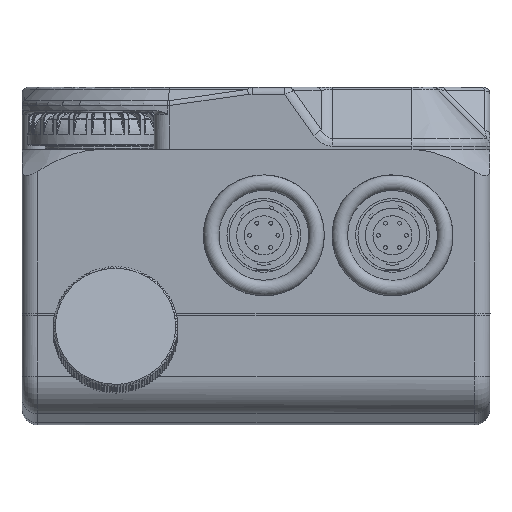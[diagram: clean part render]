
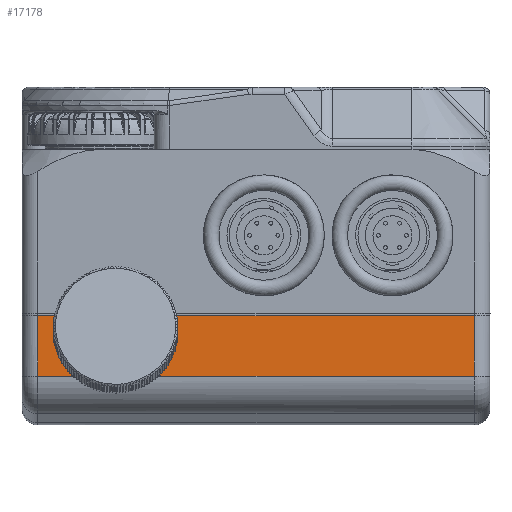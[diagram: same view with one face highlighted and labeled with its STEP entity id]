
A CAD part, left-side view. The second image highlights one B-rep face of the part: STEP entity #17178.
In plain terms, the highlighted planar face has unit normal (-1, 0, 0).
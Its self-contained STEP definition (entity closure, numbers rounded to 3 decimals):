
#13363=ELLIPSE('',#49721,3.132,3.025);
#15086=FACE_BOUND('',#22423,.T.);
#15087=FACE_BOUND('',#22424,.T.);
#17178=ADVANCED_FACE('',(#15086,#15087),#18096,.T.);
#18096=PLANE('',#49753);
#22423=EDGE_LOOP('',(#32717));
#22424=EDGE_LOOP('',(#32718,#32719,#32720,#32721));
#32717=ORIENTED_EDGE('',*,*,#42197,.T.);
#32718=ORIENTED_EDGE('',*,*,#42193,.T.);
#32719=ORIENTED_EDGE('',*,*,#42200,.T.);
#32720=ORIENTED_EDGE('',*,*,#42278,.F.);
#32721=ORIENTED_EDGE('',*,*,#42194,.T.);
#36823=VERTEX_POINT('',#93236);
#36851=VERTEX_POINT('',#93602);
#36869=VERTEX_POINT('',#93833);
#36871=VERTEX_POINT('',#93847);
#36873=VERTEX_POINT('',#93860);
#42193=EDGE_CURVE('',#36851,#36823,#47736,.T.);
#42194=EDGE_CURVE('',#36869,#36851,#47737,.T.);
#42197=EDGE_CURVE('',#36871,#36871,#13363,.T.);
#42200=EDGE_CURVE('',#36823,#36873,#47742,.T.);
#42278=EDGE_CURVE('',#36869,#36873,#47820,.T.);
#47736=B_SPLINE_CURVE_WITH_KNOTS('',3,(#93824,#93825,#93826,#93827),
 .UNSPECIFIED.,.F.,.F.,(4,4),(0.,1.),.UNSPECIFIED.);
#47737=B_SPLINE_CURVE_WITH_KNOTS('',3,(#93829,#93830,#93831,#93832),
 .UNSPECIFIED.,.F.,.F.,(4,4),(0.,1.),.UNSPECIFIED.);
#47742=B_SPLINE_CURVE_WITH_KNOTS('',3,(#93861,#93862,#93863,#93864),
 .UNSPECIFIED.,.F.,.F.,(4,4),(0.,1.),.UNSPECIFIED.);
#47820=B_SPLINE_CURVE_WITH_KNOTS('',3,(#94582,#94583,#94584,#94585),
 .UNSPECIFIED.,.F.,.F.,(4,4),(0.,1.),.UNSPECIFIED.);
#49721=AXIS2_PLACEMENT_3D('',#93846,#52791,#52792);
#49753=AXIS2_PLACEMENT_3D('',#94586,#52855,#52856);
#52791=DIRECTION('',(1.,0.,0.));
#52792=DIRECTION('',(0.,0.,1.));
#52855=DIRECTION('',(-1.,0.,0.));
#52856=DIRECTION('',(0.,0.,1.));
#93236=CARTESIAN_POINT('',(0.,2.,-30.52));
#93602=CARTESIAN_POINT('',(0.,58.,-30.52));
#93824=CARTESIAN_POINT('',(0.,58.,-30.52));
#93825=CARTESIAN_POINT('',(0.,39.333,-30.52));
#93826=CARTESIAN_POINT('',(0.,20.667,-30.52));
#93827=CARTESIAN_POINT('',(0.,2.,-30.52));
#93829=CARTESIAN_POINT('',(0.,58.,-22.771));
#93830=CARTESIAN_POINT('',(0.,58.,-25.354));
#93831=CARTESIAN_POINT('',(0.,58.,-27.937));
#93832=CARTESIAN_POINT('',(0.,58.,-30.52));
#93833=CARTESIAN_POINT('',(0.,58.,-22.771));
#93846=CARTESIAN_POINT('',(0.,48.,-26.592));
#93847=CARTESIAN_POINT('',(0.,48.,-23.46));
#93860=CARTESIAN_POINT('',(0.,2.,-22.771));
#93861=CARTESIAN_POINT('',(0.,2.,-30.52));
#93862=CARTESIAN_POINT('',(0.,2.,-27.937));
#93863=CARTESIAN_POINT('',(0.,2.,-25.354));
#93864=CARTESIAN_POINT('',(0.,2.,-22.771));
#94582=CARTESIAN_POINT('',(0.,58.,-22.771));
#94583=CARTESIAN_POINT('',(0.,39.333,-22.771));
#94584=CARTESIAN_POINT('',(0.,20.667,-22.771));
#94585=CARTESIAN_POINT('',(0.,2.,-22.771));
#94586=CARTESIAN_POINT('',(0.,0.,
-36.771));
